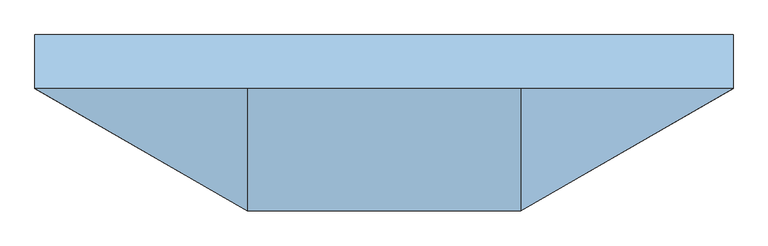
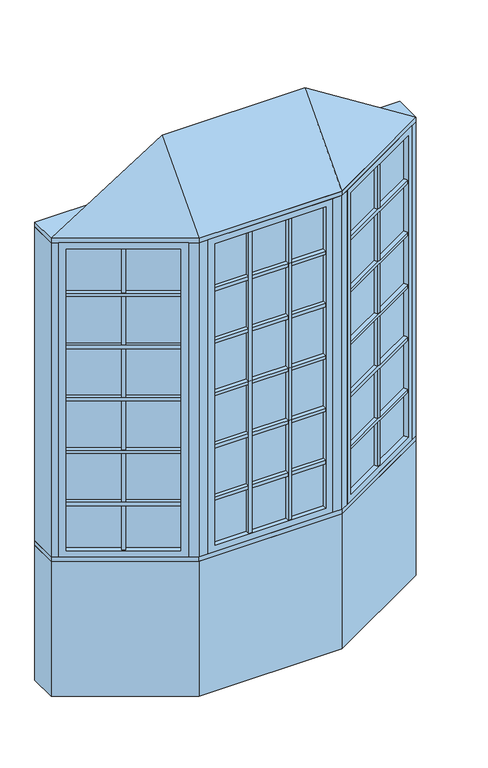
"""IFC4 building model written with IfcOpenShell, lengths in millimetres: window geometry, Pollard_Windows_Tudor Casement Bows and Bays : AML-BAY 30 AFR0518-10-600_GC."""

from ifc_helpers import new_model, si_unit, frame, origin, origin_with_axes, place, context, project, spatial, polyline, outline, extrude, faceted_brep, source, transform, mapped, element, save


def window_5dd3b73d(model_context):
    return source(origin(), model_context, "Body", "SolidModel", [
        extrude(outline(polyline([(460.381999, -376.6297343), (449.381999, -357.5771754), (915.6135794, -88.3982469), (926.6135794, -107.4508058), (460.381999, -376.6297343)])), frame((0.0, 0.0, 1690.998), z_axis=(0.0, 0.0, 1.0), x_axis=(1.0, 0.0, 0.0)), (0.0, 0.0, 1.0), 18.0),
        extrude(outline(polyline([(446.841999, -353.1777664), (435.841999, -334.1252075), (902.0735794, -64.946279), (913.0735794, -83.9988379), (446.841999, -353.1777664)])), frame((0.0, 0.0, 1690.998), z_axis=(0.0, 0.0, 1.0), x_axis=(1.0, 0.0, 0.0)), (0.0, 0.0, 1.0), 18.0),
        extrude(outline(polyline([(460.381999, -376.6297343), (449.381999, -357.5771754), (915.6135794, -88.3982469), (926.6135794, -107.4508058), (460.381999, -376.6297343)])), frame((0.0, 0.0, 1090.998), z_axis=(0.0, 0.0, 1.0), x_axis=(1.0, 0.0, 0.0)), (0.0, 0.0, 1.0), 18.0),
        extrude(outline(polyline([(446.841999, -353.1777664), (435.841999, -334.1252075), (902.0735794, -64.946279), (913.0735794, -83.9988379), (446.841999, -353.1777664)])), frame((0.0, 0.0, 1090.998), z_axis=(0.0, 0.0, 1.0), x_axis=(1.0, 0.0, 0.0)), (0.0, 0.0, 1.0), 18.0),
        extrude(outline(polyline([(460.381999, -376.6297343), (449.381999, -357.5771754), (915.6135794, -88.3982469), (926.6135794, -107.4508058), (460.381999, -376.6297343)])), frame((0.0, 0.0, 1390.998), z_axis=(0.0, 0.0, 1.0), x_axis=(1.0, 0.0, 0.0)), (0.0, 0.0, 1.0), 18.0),
        extrude(outline(polyline([(446.841999, -353.1777664), (435.841999, -334.1252075), (902.0735794, -64.946279), (913.0735794, -83.9988379), (446.841999, -353.1777664)])), frame((0.0, 0.0, 1390.998), z_axis=(0.0, 0.0, 1.0), x_axis=(1.0, 0.0, 0.0)), (0.0, 0.0, 1.0), 18.0),
        extrude(outline(polyline([(460.381999, -376.6297343), (449.381999, -357.5771754), (915.6135794, -88.3982469), (926.6135794, -107.4508058), (460.381999, -376.6297343)])), frame((0.0, 0.0, 1990.998), z_axis=(0.0, 0.0, 1.0), x_axis=(1.0, 0.0, 0.0)), (0.0, 0.0, 1.0), 18.0),
        extrude(outline(polyline([(446.841999, -353.1777664), (435.841999, -334.1252075), (902.0735794, -64.946279), (913.0735794, -83.9988379), (446.841999, -353.1777664)])), frame((0.0, 0.0, 1990.998), z_axis=(0.0, 0.0, 1.0), x_axis=(1.0, 0.0, 0.0)), (0.0, 0.0, 1.0), 18.0),
        extrude(outline(polyline([(460.381999, -376.6297343), (449.381999, -357.5771754), (915.6135794, -88.3982469), (926.6135794, -107.4508058), (460.381999, -376.6297343)])), frame((0.0, 0.0, 2290.998), z_axis=(0.0, 0.0, 1.0), x_axis=(1.0, 0.0, 0.0)), (0.0, 0.0, 1.0), 18.0),
        extrude(outline(polyline([(446.841999, -353.1777664), (435.841999, -334.1252075), (902.0735794, -64.946279), (913.0735794, -83.9988379), (446.841999, -353.1777664)])), frame((0.0, 0.0, 2290.998), z_axis=(0.0, 0.0, 1.0), x_axis=(1.0, 0.0, 0.0)), (0.0, 0.0, 1.0), 18.0),
        extrude(outline(polyline([(690.2920178, -218.4877112), (701.2920178, -237.5402701), (685.7035606, -246.5402701), (674.7035606, -227.4877112), (690.2920178, -218.4877112)])), frame((0.0, 0.0, 835.8628), z_axis=(0.0, 0.0, 1.0), x_axis=(1.0, 0.0, 0.0)), (0.0, 0.0, 1.0), 1728.2704),
        extrude(outline(polyline([(687.7520178, -214.0883021), (672.1635606, -223.0883021), (661.1635606, -204.0357432), (676.7520178, -195.0357432), (687.7520178, -214.0883021)])), frame((0.0, 0.0, 835.8628), z_axis=(0.0, 0.0, 1.0), x_axis=(1.0, 0.0, 0.0)), (0.0, 0.0, 1.0), 1728.2704),
        extrude(outline(polyline([(926.612102, -82.0482469), (438.3834764, -363.9271754), (435.8434764, -359.5277664), (924.072102, -77.6488379), (926.612102, -82.0482469)])), frame((0.0, 0.0, 823.1628), z_axis=(0.0, 0.0, 1.0), x_axis=(1.0, 0.0, 0.0)), (0.0, 0.0, 1.0), 1753.6704),
        faceted_brep([(915.6135794, -88.3982469, 835.8628), (928.3135794, -110.3952922, 835.8628), (928.3135794, -110.3952922, 2564.1332), (915.6135794, -88.3982469, 2564.1332), (924.072102, -77.6488379, 823.1628), (926.612102, -82.0482469, 823.1628), (926.612102, -82.0482469, 2576.8332), (924.072102, -77.6488379, 2576.8332), (900.3735794, -62.0017926, 835.8628), (913.0735794, -83.9988379, 835.8628), (913.0735794, -83.9988379, 2564.1332), (900.3735794, -62.0017926, 2564.1332), (959.3734073, -92.4628922, 799.998), (931.4334073, -44.0693926, 799.998), (931.4334073, -44.0693926, 2599.998), (959.3734073, -92.4628922, 2599.998), (462.081999, -379.5742207, 2564.1332), (449.381999, -357.5771754, 2564.1332), (438.3834764, -363.9271754, 2576.8332), (435.8434764, -359.5277664, 2576.8332), (446.841999, -353.1777664, 2564.1332), (434.141999, -331.1807211, 2564.1332), (403.0821711, -349.1131211, 2599.998), (431.0221711, -397.5066207, 2599.998), (462.081999, -379.5742207, 835.8628), (449.381999, -357.5771754, 835.8628), (438.3834764, -363.9271754, 823.1628), (435.8434764, -359.5277664, 823.1628), (446.841999, -353.1777664, 835.8628), (434.141999, -331.1807211, 835.8628), (403.0821711, -349.1131211, 799.998), (431.0221711, -397.5066207, 799.998)], [[[0, 1, 2, 3]], [[4, 5, 6, 7]], [[8, 9, 10, 11]], [[12, 13, 14, 15]], [[3, 2, 16, 17]], [[7, 6, 18, 19]], [[11, 10, 20, 21]], [[15, 14, 22, 23]], [[17, 16, 24, 25]], [[19, 18, 26, 27]], [[21, 20, 28, 29]], [[23, 22, 30, 31]], [[25, 24, 1, 0]], [[5, 26, 18, 6], [3, 17, 25, 0]], [[27, 26, 5, 4]], [[7, 19, 27, 4], [9, 28, 20, 10]], [[29, 28, 9, 8]], [[13, 30, 22, 14], [11, 21, 29, 8]], [[31, 30, 13, 12]], [[15, 23, 31, 12], [1, 24, 16, 2]]]),
        extrude(outline(polyline([(116.852167, -397.1066207), (116.852167, -419.1066207), (98.852167, -419.1066207), (98.852167, -397.1066207), (116.852167, -397.1066207)])), frame((0.0, 0.0, 835.8628), z_axis=(0.0, 0.0, 1.0), x_axis=(1.0, 0.0, 0.0)), (0.0, 0.0, 1.0), 1728.2704),
        extrude(outline(polyline([(116.852167, -392.0266207), (98.852167, -392.0266207), (98.852167, -370.0266207), (116.852167, -370.0266207), (116.852167, -392.0266207)])), frame((0.0, 0.0, 835.8628), z_axis=(0.0, 0.0, 1.0), x_axis=(1.0, 0.0, 0.0)), (0.0, 0.0, 1.0), 1728.2704),
        extrude(outline(polyline([(-98.852167, -397.1066207), (-98.852167, -419.1066207), (-116.852167, -419.1066207), (-116.852167, -397.1066207), (-98.852167, -397.1066207)])), frame((0.0, 0.0, 835.8628), z_axis=(0.0, 0.0, 1.0), x_axis=(1.0, 0.0, 0.0)), (0.0, 0.0, 1.0), 1728.2704),
        extrude(outline(polyline([(-98.852167, -392.0266207), (-116.852167, -392.0266207), (-116.852167, -370.0266207), (-98.852167, -370.0266207), (-98.852167, -392.0266207)])), frame((0.0, 0.0, 835.8628), z_axis=(0.0, 0.0, 1.0), x_axis=(1.0, 0.0, 0.0)), (0.0, 0.0, 1.0), 1728.2704),
        extrude(outline(polyline([(-301.8561009, -419.1066207), (-301.8561009, -397.1066207), (301.8561009, -397.1066207), (301.8561009, -419.1066207), (-301.8561009, -419.1066207)])), frame((0.0, 0.0, 1090.998), z_axis=(0.0, 0.0, 1.0), x_axis=(1.0, 0.0, 0.0)), (0.0, 0.0, 1.0), 18.0),
        extrude(outline(polyline([(-301.8561009, -392.0266207), (-301.8561009, -370.0266207), (301.8561009, -370.0266207), (301.8561009, -392.0266207), (-301.8561009, -392.0266207)])), frame((0.0, 0.0, 1090.998), z_axis=(0.0, 0.0, 1.0), x_axis=(1.0, 0.0, 0.0)), (0.0, 0.0, 1.0), 18.0),
        extrude(outline(polyline([(-301.8561009, -419.1066207), (-301.8561009, -397.1066207), (301.8561009, -397.1066207), (301.8561009, -419.1066207), (-301.8561009, -419.1066207)])), frame((0.0, 0.0, 1390.998), z_axis=(0.0, 0.0, 1.0), x_axis=(1.0, 0.0, 0.0)), (0.0, 0.0, 1.0), 18.0),
        extrude(outline(polyline([(-301.8561009, -392.0266207), (-301.8561009, -370.0266207), (301.8561009, -370.0266207), (301.8561009, -392.0266207), (-301.8561009, -392.0266207)])), frame((0.0, 0.0, 1390.998), z_axis=(0.0, 0.0, 1.0), x_axis=(1.0, 0.0, 0.0)), (0.0, 0.0, 1.0), 18.0),
        extrude(outline(polyline([(-301.8561009, -419.1066207), (-301.8561009, -397.1066207), (301.8561009, -397.1066207), (301.8561009, -419.1066207), (-301.8561009, -419.1066207)])), frame((0.0, 0.0, 1690.998), z_axis=(0.0, 0.0, 1.0), x_axis=(1.0, 0.0, 0.0)), (0.0, 0.0, 1.0), 18.0),
        extrude(outline(polyline([(-301.8561009, -392.0266207), (-301.8561009, -370.0266207), (301.8561009, -370.0266207), (301.8561009, -392.0266207), (-301.8561009, -392.0266207)])), frame((0.0, 0.0, 1690.998), z_axis=(0.0, 0.0, 1.0), x_axis=(1.0, 0.0, 0.0)), (0.0, 0.0, 1.0), 18.0),
        extrude(outline(polyline([(-301.8561009, -419.1066207), (-301.8561009, -397.1066207), (301.8561009, -397.1066207), (301.8561009, -419.1066207), (-301.8561009, -419.1066207)])), frame((0.0, 0.0, 1990.998), z_axis=(0.0, 0.0, 1.0), x_axis=(1.0, 0.0, 0.0)), (0.0, 0.0, 1.0), 18.0),
        extrude(outline(polyline([(-301.8561009, -392.0266207), (-301.8561009, -370.0266207), (301.8561009, -370.0266207), (301.8561009, -392.0266207), (-301.8561009, -392.0266207)])), frame((0.0, 0.0, 1990.998), z_axis=(0.0, 0.0, 1.0), x_axis=(1.0, 0.0, 0.0)), (0.0, 0.0, 1.0), 18.0),
        extrude(outline(polyline([(-926.6135794, -107.4508058), (-915.6135794, -88.3982469), (-449.381999, -357.5771754), (-460.381999, -376.6297343), (-926.6135794, -107.4508058)])), frame((0.0, 0.0, 1090.998), z_axis=(0.0, 0.0, 1.0), x_axis=(1.0, 0.0, 0.0)), (0.0, 0.0, 1.0), 18.0),
        extrude(outline(polyline([(-913.0735794, -83.9988379), (-902.0735794, -64.946279), (-435.841999, -334.1252075), (-446.841999, -353.1777664), (-913.0735794, -83.9988379)])), frame((0.0, 0.0, 1090.998), z_axis=(0.0, 0.0, 1.0), x_axis=(1.0, 0.0, 0.0)), (0.0, 0.0, 1.0), 18.0),
        extrude(outline(polyline([(-926.6135794, -107.4508058), (-915.6135794, -88.3982469), (-449.381999, -357.5771754), (-460.381999, -376.6297343), (-926.6135794, -107.4508058)])), frame((0.0, 0.0, 1390.998), z_axis=(0.0, 0.0, 1.0), x_axis=(1.0, 0.0, 0.0)), (0.0, 0.0, 1.0), 18.0),
        extrude(outline(polyline([(-913.0735794, -83.9988379), (-902.0735794, -64.946279), (-435.841999, -334.1252075), (-446.841999, -353.1777664), (-913.0735794, -83.9988379)])), frame((0.0, 0.0, 1390.998), z_axis=(0.0, 0.0, 1.0), x_axis=(1.0, 0.0, 0.0)), (0.0, 0.0, 1.0), 18.0),
        extrude(outline(polyline([(-926.6135794, -107.4508058), (-915.6135794, -88.3982469), (-449.381999, -357.5771754), (-460.381999, -376.6297343), (-926.6135794, -107.4508058)])), frame((0.0, 0.0, 1690.998), z_axis=(0.0, 0.0, 1.0), x_axis=(1.0, 0.0, 0.0)), (0.0, 0.0, 1.0), 18.0),
        extrude(outline(polyline([(-913.0735794, -83.9988379), (-902.0735794, -64.946279), (-435.841999, -334.1252075), (-446.841999, -353.1777664), (-913.0735794, -83.9988379)])), frame((0.0, 0.0, 1690.998), z_axis=(0.0, 0.0, 1.0), x_axis=(1.0, 0.0, 0.0)), (0.0, 0.0, 1.0), 18.0),
        extrude(outline(polyline([(-926.6135794, -107.4508058), (-915.6135794, -88.3982469), (-449.381999, -357.5771754), (-460.381999, -376.6297343), (-926.6135794, -107.4508058)])), frame((0.0, 0.0, 1990.998), z_axis=(0.0, 0.0, 1.0), x_axis=(1.0, 0.0, 0.0)), (0.0, 0.0, 1.0), 18.0),
        extrude(outline(polyline([(-913.0735794, -83.9988379), (-902.0735794, -64.946279), (-435.841999, -334.1252075), (-446.841999, -353.1777664), (-913.0735794, -83.9988379)])), frame((0.0, 0.0, 1990.998), z_axis=(0.0, 0.0, 1.0), x_axis=(1.0, 0.0, 0.0)), (0.0, 0.0, 1.0), 18.0),
        extrude(outline(polyline([(-926.6135794, -107.4508058), (-915.6135794, -88.3982469), (-449.381999, -357.5771754), (-460.381999, -376.6297343), (-926.6135794, -107.4508058)])), frame((0.0, 0.0, 2290.998), z_axis=(0.0, 0.0, 1.0), x_axis=(1.0, 0.0, 0.0)), (0.0, 0.0, 1.0), 18.0),
        extrude(outline(polyline([(-913.0735794, -83.9988379), (-902.0735794, -64.946279), (-435.841999, -334.1252075), (-446.841999, -353.1777664), (-913.0735794, -83.9988379)])), frame((0.0, 0.0, 2290.998), z_axis=(0.0, 0.0, 1.0), x_axis=(1.0, 0.0, 0.0)), (0.0, 0.0, 1.0), 18.0),
        extrude(outline(polyline([(-301.8561009, -419.1066207), (-301.8561009, -397.1066207), (301.8561009, -397.1066207), (301.8561009, -419.1066207), (-301.8561009, -419.1066207)])), frame((0.0, 0.0, 2290.998), z_axis=(0.0, 0.0, 1.0), x_axis=(1.0, 0.0, 0.0)), (0.0, 0.0, 1.0), 18.0),
        extrude(outline(polyline([(-301.8561009, -392.0266207), (-301.8561009, -370.0266207), (301.8561009, -370.0266207), (301.8561009, -392.0266207), (-301.8561009, -392.0266207)])), frame((0.0, 0.0, 2290.998), z_axis=(0.0, 0.0, 1.0), x_axis=(1.0, 0.0, 0.0)), (0.0, 0.0, 1.0), 18.0),
        extrude(outline(polyline([(-674.7035606, -227.4877112), (-685.7035606, -246.5402701), (-701.2920178, -237.5402701), (-690.2920178, -218.4877112), (-674.7035606, -227.4877112)])), frame((0.0, 0.0, 835.8628), z_axis=(0.0, 0.0, 1.0), x_axis=(1.0, 0.0, 0.0)), (0.0, 0.0, 1.0), 1728.2704),
        extrude(outline(polyline([(-672.1635606, -223.0883021), (-687.7520178, -214.0883021), (-676.7520178, -195.0357432), (-661.1635606, -204.0357432), (-672.1635606, -223.0883021)])), frame((0.0, 0.0, 835.8628), z_axis=(0.0, 0.0, 1.0), x_axis=(1.0, 0.0, 0.0)), (0.0, 0.0, 1.0), 1728.2704),
        extrude(outline(polyline([(-438.3834764, -363.9271754), (-926.612102, -82.0482469), (-924.072102, -77.6488379), (-435.8434764, -359.5277664), (-438.3834764, -363.9271754)])), frame((0.0, 0.0, 823.1628), z_axis=(0.0, 0.0, 1.0), x_axis=(1.0, 0.0, 0.0)), (0.0, 0.0, 1.0), 1753.6704),
        faceted_brep([(-446.841999, -353.1777664, 2564.1332), (-434.141999, -331.1807211, 2564.1332), (-434.141999, -331.1807211, 835.8628), (-446.841999, -353.1777664, 835.8628), (-438.3834764, -363.9271754, 2576.8332), (-435.8434764, -359.5277664, 2576.8332), (-435.8434764, -359.5277664, 823.1628), (-438.3834764, -363.9271754, 823.1628), (-462.081999, -379.5742207, 2564.1332), (-449.381999, -357.5771754, 2564.1332), (-449.381999, -357.5771754, 835.8628), (-462.081999, -379.5742207, 835.8628), (-403.0821711, -349.1131211, 2599.998), (-431.0221711, -397.5066207, 2599.998), (-431.0221711, -397.5066207, 799.998), (-403.0821711, -349.1131211, 799.998), (-900.3735794, -62.0017926, 835.8628), (-913.0735794, -83.9988379, 835.8628), (-924.072102, -77.6488379, 823.1628), (-926.612102, -82.0482469, 823.1628), (-915.6135794, -88.3982469, 835.8628), (-928.3135794, -110.3952922, 835.8628), (-959.3734073, -92.4628922, 799.998), (-931.4334073, -44.0693926, 799.998), (-900.3735794, -62.0017926, 2564.1332), (-913.0735794, -83.9988379, 2564.1332), (-924.072102, -77.6488379, 2576.8332), (-926.612102, -82.0482469, 2576.8332), (-915.6135794, -88.3982469, 2564.1332), (-928.3135794, -110.3952922, 2564.1332), (-959.3734073, -92.4628922, 2599.998), (-931.4334073, -44.0693926, 2599.998)], [[[0, 1, 2, 3]], [[4, 5, 6, 7]], [[8, 9, 10, 11]], [[12, 13, 14, 15]], [[3, 2, 16, 17]], [[7, 6, 18, 19]], [[11, 10, 20, 21]], [[15, 14, 22, 23]], [[17, 16, 24, 25]], [[19, 18, 26, 27]], [[21, 20, 28, 29]], [[23, 22, 30, 31]], [[15, 23, 31, 12], [1, 24, 16, 2]], [[25, 24, 1, 0]], [[5, 26, 18, 6], [3, 17, 25, 0]], [[27, 26, 5, 4]], [[7, 19, 27, 4], [9, 28, 20, 10]], [[29, 28, 9, 8]], [[13, 30, 22, 14], [11, 21, 29, 8]], [[31, 30, 13, 12]]]),
        extrude(outline(polyline([(314.5561009, -397.1066207), (-314.5561009, -397.1066207), (-314.5561009, -392.0266207), (314.5561009, -392.0266207), (314.5561009, -397.1066207)])), frame((0.0, 0.0, 823.1628), z_axis=(0.0, 0.0, 1.0), x_axis=(1.0, 0.0, 0.0)), (0.0, 0.0, 1.0), 1753.6704),
        faceted_brep([(301.8561009, -397.1066207, 835.8628), (301.8561009, -422.5066207, 835.8628), (301.8561009, -422.5066207, 2564.1332), (301.8561009, -397.1066207, 2564.1332), (314.5561009, -392.0266207, 823.1628), (314.5561009, -397.1066207, 823.1628), (314.5561009, -397.1066207, 2576.8332), (314.5561009, -392.0266207, 2576.8332), (301.8561009, -366.6266207, 835.8628), (301.8561009, -392.0266207, 835.8628), (301.8561009, -392.0266207, 2564.1332), (301.8561009, -366.6266207, 2564.1332), (337.7209009, -422.5066207, 799.998), (337.7209009, -366.6266207, 799.998), (337.7209009, -366.6266207, 2599.998), (337.7209009, -422.5066207, 2599.998), (-301.8561009, -422.5066207, 2564.1332), (-301.8561009, -397.1066207, 2564.1332), (-314.5561009, -397.1066207, 2576.8332), (-314.5561009, -392.0266207, 2576.8332), (-301.8561009, -392.0266207, 2564.1332), (-301.8561009, -366.6266207, 2564.1332), (-337.7209009, -366.6266207, 2599.998), (-337.7209009, -422.5066207, 2599.998), (-301.8561009, -422.5066207, 835.8628), (-301.8561009, -397.1066207, 835.8628), (-314.5561009, -397.1066207, 823.1628), (-314.5561009, -392.0266207, 823.1628), (-301.8561009, -392.0266207, 835.8628), (-301.8561009, -366.6266207, 835.8628), (-337.7209009, -366.6266207, 799.998), (-337.7209009, -422.5066207, 799.998)], [[[0, 1, 2, 3]], [[4, 5, 6, 7]], [[8, 9, 10, 11]], [[12, 13, 14, 15]], [[3, 2, 16, 17]], [[7, 6, 18, 19]], [[11, 10, 20, 21]], [[15, 14, 22, 23]], [[17, 16, 24, 25]], [[19, 18, 26, 27]], [[21, 20, 28, 29]], [[23, 22, 30, 31]], [[15, 23, 31, 12], [1, 24, 16, 2]], [[25, 24, 1, 0]], [[5, 26, 18, 6], [3, 17, 25, 0]], [[27, 26, 5, 4]], [[7, 19, 27, 4], [9, 28, 20, 10]], [[29, 28, 9, 8]], [[13, 30, 22, 14], [11, 21, 29, 8]], [[31, 30, 13, 12]]]),
        faceted_brep([(990.0, -74.7806207, 2625.398), (387.7209009, -422.5066207, 2625.398), (-387.7209009, -422.5066207, 2625.398), (-990.0, -74.7806207, 2625.398), (-387.7209009, -74.7806207, 3006.398), (387.7209009, -74.7806207, 3006.398)], [[[0, 1, 2, 3]], [[3, 2, 4]], [[2, 1, 5, 4]], [[1, 0, 5]], [[0, 3, 4, 5]]]),
        extrude(outline(polyline([(-990.0, 77.6193793), (990.0, 77.6193793), (990.0, -74.7806207), (387.7209009, -422.5066207), (-387.7209009, -422.5066207), (-990.0, -74.7806207), (-990.0, 77.6193793)])), frame((0.0, 0.0, 2599.998), z_axis=(0.0, 0.0, 1.0), x_axis=(1.0, 0.0, 0.0)), (0.0, 0.0, 1.0), 25.4),
        extrude(outline(polyline([(-990.0, -74.7806207), (-990.0, 77.6193793), (-949.1645431, 77.6193793), (-949.1645431, -74.7806207), (-959.3734073, -92.4628922), (-990.0, -74.7806207)])), frame((0.0, 0.0, 799.998), z_axis=(0.0, 0.0, 1.0), x_axis=(1.0, 0.0, 0.0)), (0.0, 0.0, 1.0), 1800.0),
        extrude(outline(polyline([(990.0, 77.6193793), (990.0, -74.7806207), (959.3734073, -92.4628922), (949.1645431, -74.7806207), (949.1645431, 77.6193793), (990.0, 77.6193793)])), frame((0.0, 0.0, 799.998), z_axis=(0.0, 0.0, 1.0), x_axis=(1.0, 0.0, 0.0)), (0.0, 0.0, 1.0), 1800.0),
        extrude(outline(polyline([(387.7209009, -422.5066207), (337.7209009, -422.5066207), (337.7209009, -372.5066207), (374.3234413, -372.5066207), (406.0221711, -354.2053505), (431.0221711, -397.5066207), (387.7209009, -422.5066207)])), frame((0.0, 0.0, 799.998), z_axis=(0.0, 0.0, 1.0), x_axis=(1.0, 0.0, 0.0)), (0.0, 0.0, 1.0), 1800.0),
        extrude(outline(polyline([(-387.7209009, -422.5066207), (-431.0221711, -397.5066207), (-406.0221711, -354.2053505), (-374.3234413, -372.5066207), (-337.7209009, -372.5066207), (-337.7209009, -422.5066207), (-387.7209009, -422.5066207)])), frame((0.0, 0.0, 799.998), z_axis=(0.0, 0.0, 1.0), x_axis=(1.0, 0.0, 0.0)), (0.0, 0.0, 1.0), 1800.0),
        extrude(outline(polyline([(-387.7209009, -422.5066207), (-990.0, -74.7806207), (-990.0, 77.6193793), (-949.1645431, 77.6193793), (-346.885444, -270.1066207), (346.885444, -270.1066207), (949.1645431, 77.6193793), (990.0, 77.6193793), (990.0, -74.7806207), (387.7209009, -422.5066207), (-387.7209009, -422.5066207)])), frame((0.0, 0.0, 774.598), z_axis=(0.0, 0.0, 1.0), x_axis=(1.0, 0.0, 0.0)), (0.0, 0.0, 1.0), 25.4),
        extrude(outline(polyline([(-990.0, -74.7806207), (-990.0, 77.6193793), (-949.1645431, 77.6193793), (-346.885444, -270.1066207), (346.885444, -270.1066207), (949.1645431, 77.6193793), (990.0, 77.6193793), (990.0, -74.7806207), (387.7209009, -422.5066207), (-387.7209009, -422.5066207), (-990.0, -74.7806207)])), origin_with_axes(), (0.0, 0.0, 1.0), 774.598),
    ])


if __name__ == "__main__":
    model = new_model("IFC4")
    model_context = context("Model", 3, world=origin())
    ifc_project = project(units=[si_unit("LENGTHUNIT", "METRE", prefix="MILLI")], contexts=[model_context])
    site = spatial("IfcSite", under=ifc_project)
    building = spatial("IfcBuilding", under=site)
    placement = place(None, origin())
    window_shape = window_5dd3b73d(model_context)
    element("IfcWindow", 1, ObjectType="Pollard_Windows_Tudor Casement Bows and Bays : AML-BAY 30 AFR0518-10-600_GC", at=placement, inside=building, context=model_context, shape_type="MappedRepresentation", body=[
        mapped(window_shape, transform((0.0, 0.0, 0.0), x_axis=(1.0, 0.0, 0.0), y_axis=(0.0, 1.0, 0.0), z_axis=(0.0, 0.0, 1.0))),
    ])
    save(model, "model.ifc")
